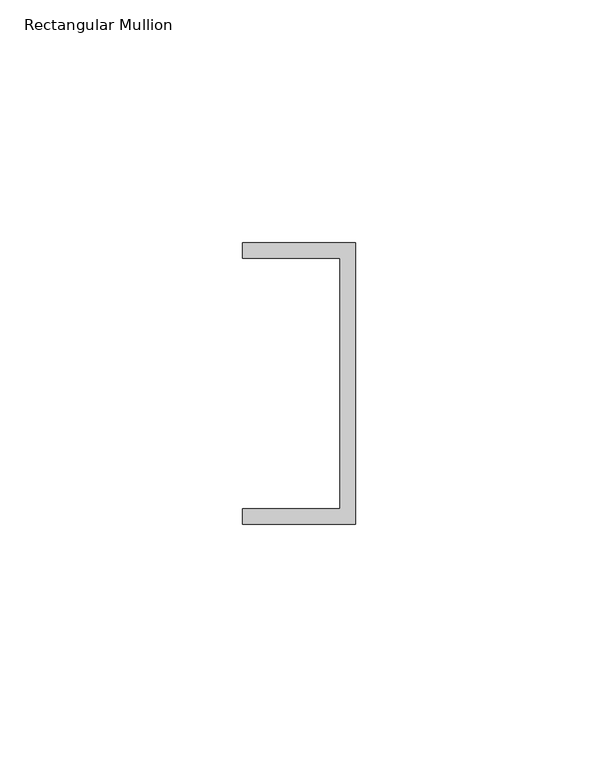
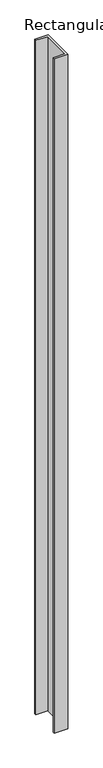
"""IFC4 building model written with IfcOpenShell, lengths in millimetres: member geometry, Rectangular Mullion : Frame-Teknion-Altos-Base_Channel."""

from ifc_helpers import new_model, si_unit, frame, origin, place, context, project, spatial, polyline, outline, extrude, source, transform, mapped, element, save


def rectangular_mullion_b90257fc(model_context):
    return source(origin(), model_context, "Body", "SweptSolid", [
        extrude(outline(polyline([(0.0, 29.0214844), (0.0, -29.0214844), (-23.3164063, -29.0214844), (-23.3164063, -25.8464844), (-3.175, -25.8464844), (-3.175, 25.8464844), (-23.3164063, 25.8464844), (-23.3164063, 29.0214844), (0.0, 29.0214844)])), frame((0.0, 0.0, -1228.0304688), z_axis=(0.0, 0.0, 1.0), x_axis=(1.0, 0.0, 0.0)), (0.0, 0.0, 1.0), 1228.0304687),
    ])


if __name__ == "__main__":
    model = new_model("IFC4")
    model_context = context("Model", 3, world=origin())
    ifc_project = project(units=[si_unit("LENGTHUNIT", "METRE", prefix="MILLI")], contexts=[model_context])
    site = spatial("IfcSite", under=ifc_project)
    building = spatial("IfcBuilding", under=site)
    placement = place(None, origin())
    rectangular_mullion_shape = rectangular_mullion_b90257fc(model_context)
    element("IfcMember", 1, ObjectType="Rectangular Mullion : Frame-Teknion-Altos-Base_Channel", at=placement, inside=building, context=model_context, shape_type="MappedRepresentation", body=[
        mapped(rectangular_mullion_shape, transform((0.0, 0.0, 0.0), x_axis=(1.0, 0.0, 0.0), y_axis=(0.0, 1.0, 0.0), z_axis=(0.0, 0.0, 1.0))),
    ])
    save(model, "model.ifc")
